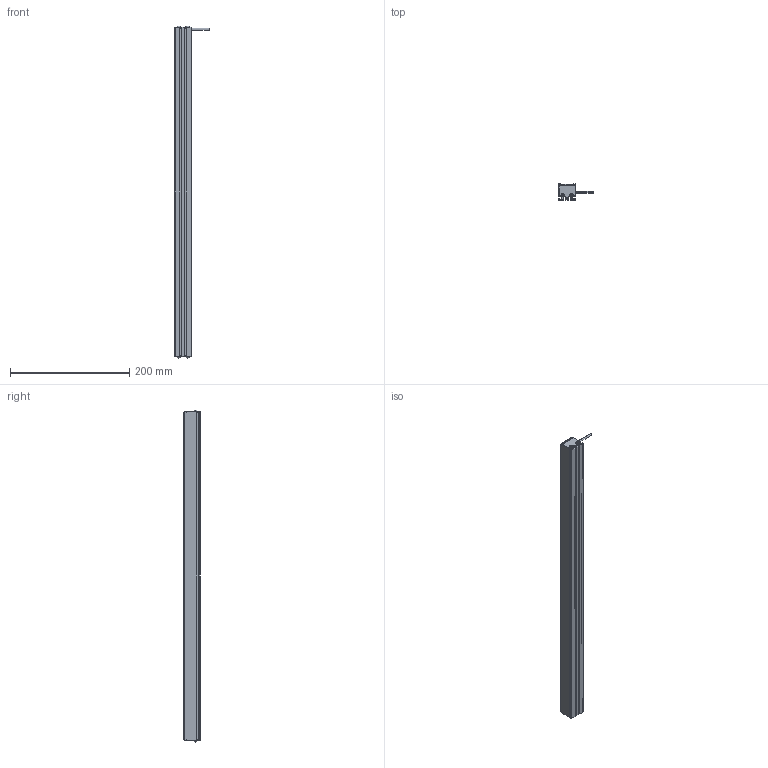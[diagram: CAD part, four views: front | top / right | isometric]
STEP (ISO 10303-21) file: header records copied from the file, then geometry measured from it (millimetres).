
FILE_DESCRIPTION((''),'2;1');
FILE_NAME('MV-LLDS-552-28_ASM','2020-12-30T',('Administrator'),(''),'PRO/ENGINEER BY PARAMETRIC TECHNOLOGY CORPORATION, 2010100','PRO/ENGINEER BY PARAMETRIC TECHNOLOGY CORPORATION, 2010100','');
FILE_SCHEMA(('CONFIG_CONTROL_DESIGN'));
Length unit declared in the file: millimetre
Products named in the file (3): BL-4_2_; M3-5_3; MV-LLDS-552-28_ASM
Assembly tree (5 placements, depth 2):
  MV-LLDS-552-28_ASM
    BL-4_2_
    M3-5_3  x4
Bounding box: 58 x 27 x 556.68 mm (x, y, z)
Volume: 345800 mm3; surface area: 129188.5 mm2
Topology: 5 solids, 13 shells, 303 faces, 802 edges, 516 vertices
Faces by surface type: plane 185, cylinder 70, cone 16, bspline 16, torus 8, sphere 8
Entity records: 6720 total; most frequent: CARTESIAN_POINT 1432, ORIENTED_EDGE 1074, DIRECTION 1069, EDGE_CURVE 547, VECTOR 397, LINE 397, VERTEX_POINT 357, AXIS2_PLACEMENT_3D 336
